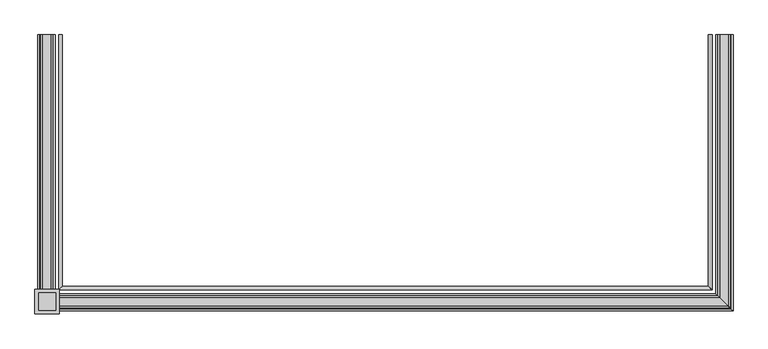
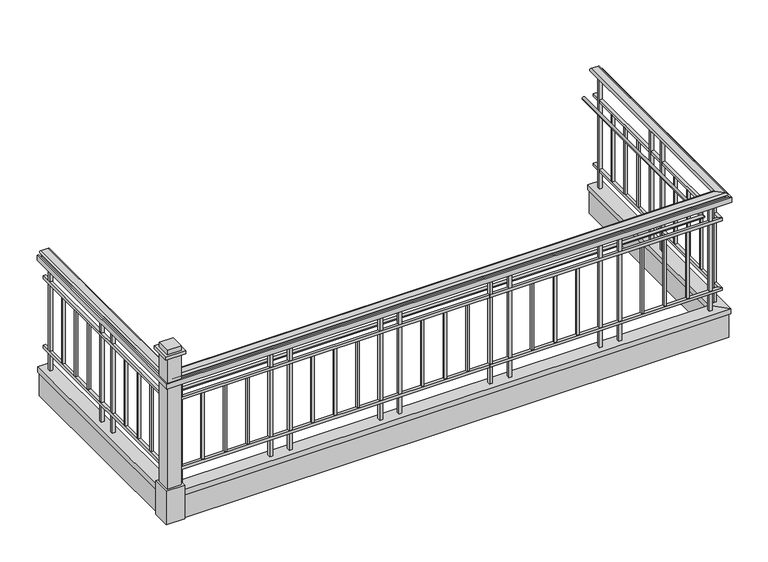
"""IFC4 building model written with IfcOpenShell, lengths in millimetres: railing geometry, Deco Type."""

from ifc_helpers import new_model, si_unit, frame, origin, place, context, project, spatial, polyline, circle_curve, ellipse_curve, outline, extrude, faceted_brep, source, transform, mapped, element, save
from ifc_brep_helpers import plane_surface, cylinder_surface, advanced_brep


def railing_7ef01e42(model_context):
    return source(origin(), model_context, "Body", "SolidModel", [
        advanced_brep(
        [(10061.4002076, -7864.1661799, 7194.55), (10124.7499602, -7864.1661799, 7194.55), (10124.7499602, -7864.1661799, 7172.261629), (10124.7499602, -7864.1661799, 7162.8), (10061.4002076, -7864.1661799, 7162.8), (10061.4002076, -7864.1661799, 7172.3248415), (10061.4002076, -9707.4039273, 7172.3248415), (10061.4002076, -9707.4039273, 7194.55), (10061.4002076, -9707.4039273, 7162.8), (10124.7499602, -9770.7536799, 7162.8), (10124.7499602, -9770.7536799, 7172.261629), (10124.7499602, -9770.7536799, 7194.55), (5376.3872128, -9707.4039273, 7172.3248415), (5376.3872128, -9707.4039273, 7194.55), (5376.3872128, -9707.4039273, 7162.8), (5313.0374602, -9770.7536799, 7162.8), (5313.0374602, -9770.7536799, 7172.261629), (5313.0374602, -9770.7536799, 7194.55), (5376.3872128, -7864.1661799, 7194.55), (5376.3872128, -7864.1661799, 7172.3248415), (5376.3872128, -7864.1661799, 7162.8), (5313.0374602, -7864.1661799, 7162.8), (5313.0374602, -7864.1661799, 7172.261629), (5313.0374602, -7864.1661799, 7194.55)],
        [
            (0, 1),
            (1, 2, circle_curve(frame((10124.7499602, -7864.1661799, 7183.4058145), z_axis=(0.0, 1.0, 0.0), x_axis=(1.0, 0.0, 0.0)), 11.1441855)),
            (2, 3),
            (3, 4),
            (4, 5),
            (5, 0, circle_curve(frame((10061.4002076, -7864.1661799, 7183.4374207), z_axis=(0.0, 1.0, 0.0), x_axis=(1.0, 0.0, 0.0)), 11.1125793)),
            (5, 6),
            (6, 7, ellipse_curve(frame((10061.4002076, -9707.4039273, 7183.4374207), z_axis=(0.7071067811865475, 0.7071067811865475, 0.0), x_axis=(-0.7071067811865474, 0.7071067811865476, 0.0)), 15.7155603, 11.1125793)),
            (7, 0),
            (4, 8),
            (8, 6),
            (3, 9),
            (9, 8),
            (2, 10),
            (10, 9),
            (1, 11),
            (11, 10, ellipse_curve(frame((10124.7499602, -9770.7536799, 7183.4058145), z_axis=(0.7071067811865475, 0.7071067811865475, 0.0), x_axis=(-0.7071067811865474, 0.7071067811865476, 0.0)), 15.7602583, 11.1441855)),
            (7, 11),
            (6, 12),
            (12, 13, ellipse_curve(frame((5376.3872128, -9707.4039273, 7183.4374207), z_axis=(0.7071067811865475, -0.7071067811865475, 0.0), x_axis=(0.7071067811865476, 0.7071067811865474, 0.0)), 15.7155603, 11.1125793)),
            (13, 7),
            (8, 14),
            (14, 12),
            (9, 15),
            (15, 14),
            (10, 16),
            (16, 15),
            (11, 17),
            (17, 16, ellipse_curve(frame((5313.0374602, -9770.7536799, 7183.4058145), z_axis=(0.7071067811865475, -0.7071067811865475, 0.0), x_axis=(0.7071067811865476, 0.7071067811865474, 0.0)), 15.7602583, 11.1441855)),
            (13, 17),
            (18, 19, circle_curve(frame((5376.3872128, -7864.1661799, 7183.4374207), z_axis=(0.0, 1.0, 0.0), x_axis=(-1.0, 0.0, 0.0)), 11.1125793)),
            (19, 20),
            (20, 21),
            (21, 22),
            (22, 23, circle_curve(frame((5313.0374602, -7864.1661799, 7183.4058145), z_axis=(0.0, 1.0, 0.0), x_axis=(-1.0, 0.0, 0.0)), 11.1441855)),
            (23, 18),
            (12, 19),
            (18, 13),
            (14, 20),
            (15, 21),
            (16, 22),
            (17, 23),
        ],
        [
            plane_surface(frame((10092.9999602, -7864.1661799, 7162.8), z_axis=(0.0, 1.0, 0.0), x_axis=(0.0, 0.0, -1.0))),
            cylinder_surface(frame((10061.4002076, -7864.1661799, 7183.4374207), z_axis=(0.0, 1.0, 0.0), x_axis=(1.0, 0.0, 0.0)), 11.1125793),
            plane_surface(frame((10061.4002076, -7864.1661799, 7162.8), z_axis=(-1.0, 0.0, 0.0), x_axis=(0.0, -1.0, 0.0))),
            plane_surface(frame((10124.7499602, -7864.1661799, 7162.8), z_axis=(0.0, 0.0, -1.0), x_axis=(0.0, -1.0, 0.0))),
            plane_surface(frame((10124.7499602, -7864.1661799, 7172.261629), z_axis=(1.0, 0.0, 0.0), x_axis=(0.0, -1.0, 0.0))),
            cylinder_surface(frame((10124.7499602, -7864.1661799, 7183.4058145), z_axis=(0.0, 1.0, 0.0), x_axis=(1.0, 0.0, 0.0)), 11.1441855),
            plane_surface(frame((10061.4002076, -7864.1661799, 7194.55), z_axis=(0.0, 0.0, 1.0), x_axis=(0.0, -1.0, 0.0))),
            cylinder_surface(frame((10092.9999602, -9707.4039273, 7183.4374207), z_axis=(1.0, 0.0, 0.0), x_axis=(0.0, -1.0, 0.0)), 11.1125793),
            plane_surface(frame((10061.4002076, -9707.4039273, 7162.8), z_axis=(0.0, 1.0, 0.0), x_axis=(-1.0, 0.0, 0.0))),
            plane_surface(frame((10124.7499602, -9770.7536799, 7162.8), z_axis=(0.0, 0.0, -1.0), x_axis=(-1.0, 0.0, 0.0))),
            plane_surface(frame((10124.7499602, -9770.7536799, 7172.261629), z_axis=(0.0, -1.0, 0.0), x_axis=(-1.0, 0.0, 0.0))),
            cylinder_surface(frame((10092.9999602, -9770.7536799, 7183.4058145), z_axis=(1.0, 0.0, 0.0), x_axis=(0.0, -1.0, 0.0)), 11.1441855),
            plane_surface(frame((10061.4002076, -9707.4039273, 7194.55), z_axis=(0.0, 0.0, 1.0), x_axis=(-1.0, 0.0, 0.0))),
            plane_surface(frame((5344.7874602, -7864.1661799, 7162.8), z_axis=(0.0, 1.0, 0.0), x_axis=(0.0, 0.0, 1.0))),
            cylinder_surface(frame((5376.3872128, -9739.0036799, 7183.4374207), z_axis=(0.0, -1.0, 0.0), x_axis=(-1.0, 0.0, 0.0)), 11.1125793),
            plane_surface(frame((5376.3872128, -9707.4039273, 7162.8), z_axis=(1.0, 0.0, 0.0), x_axis=(0.0, 1.0, 0.0))),
            plane_surface(frame((5313.0374602, -9770.7536799, 7162.8), z_axis=(0.0, 0.0, -1.0), x_axis=(0.0, 1.0, 0.0))),
            plane_surface(frame((5313.0374602, -9770.7536799, 7172.261629), z_axis=(-1.0, 0.0, 0.0), x_axis=(0.0, 1.0, 0.0))),
            cylinder_surface(frame((5313.0374602, -9739.0036799, 7183.4058145), z_axis=(0.0, -1.0, 0.0), x_axis=(-1.0, 0.0, 0.0)), 11.1441855),
            plane_surface(frame((5376.3872128, -9707.4039273, 7194.55), z_axis=(0.0, 0.0, 1.0), x_axis=(0.0, 1.0, 0.0))),
        ],
        [
            (0, [[1, 2, 3, 4, 5, 6]]),
            (1, [[-6, 7, 8, 9]]),
            (2, [[-5, 10, 11, -7]]),
            (3, [[-4, 12, 13, -10]]),
            (4, [[-3, 14, 15, -12]]),
            (5, [[-2, 16, 17, -14]]),
            (6, [[-1, -9, 18, -16]]),
            (7, [[-8, 19, 20, 21]]),
            (8, [[-11, 22, 23, -19]]),
            (9, [[-13, 24, 25, -22]]),
            (10, [[-15, 26, 27, -24]]),
            (11, [[-17, 28, 29, -26]]),
            (12, [[-18, -21, 30, -28]]),
            (13, [[31, 32, 33, 34, 35, 36]]),
            (14, [[-20, 37, -31, 38]]),
            (15, [[-23, 39, -32, -37]]),
            (16, [[-25, 40, -33, -39]]),
            (17, [[-27, 41, -34, -40]]),
            (18, [[-29, 42, -35, -41]]),
            (19, [[-30, -38, -36, -42]]),
        ],
    ),
        faceted_brep([(10118.4750839, -7864.1661799, 7162.8), (10118.4750839, -7864.1661799, 7118.35), (10105.7750839, -7864.1661799, 7118.35), (10105.7750839, -7864.1661799, 7162.8), (10105.7750839, -9751.7788036, 7162.8), (10118.4750839, -9764.4788036, 7162.8), (10105.7750839, -9751.7788036, 7118.35), (10118.4750839, -9764.4788036, 7118.35), (5332.0123365, -9751.7788036, 7162.8), (5319.3123365, -9764.4788036, 7162.8), (5332.0123365, -9751.7788036, 7118.35), (5319.3123365, -9764.4788036, 7118.35), (5319.3123365, -7864.1661799, 7162.8), (5332.0123365, -7864.1661799, 7162.8), (5332.0123365, -7864.1661799, 7118.35), (5319.3123365, -7864.1661799, 7118.35)], [[[0, 1, 2, 3]], [[0, 3, 4, 5]], [[3, 2, 6, 4]], [[2, 1, 7, 6]], [[1, 0, 5, 7]], [[5, 4, 8, 9]], [[4, 6, 10, 8]], [[6, 7, 11, 10]], [[7, 5, 9, 11]], [[12, 13, 14, 15]], [[9, 8, 13, 12]], [[8, 10, 14, 13]], [[10, 11, 15, 14]], [[11, 9, 12, 15]]]),
        faceted_brep([(10156.5750839, -7864.1661799, 7162.8), (10156.5750839, -7864.1661799, 7118.35), (10143.8750839, -7864.1661799, 7118.35), (10143.8750839, -7864.1661799, 7162.8), (10143.8750839, -9789.8788036, 7162.8), (10156.5750839, -9802.5788036, 7162.8), (10143.8750839, -9789.8788036, 7118.35), (10156.5750839, -9802.5788036, 7118.35), (5293.9123365, -9789.8788036, 7162.8), (5281.2123365, -9802.5788036, 7162.8), (5293.9123365, -9789.8788036, 7118.35), (5281.2123365, -9802.5788036, 7118.35), (5281.2123365, -7864.1661799, 7162.8), (5293.9123365, -7864.1661799, 7162.8), (5293.9123365, -7864.1661799, 7118.35), (5281.2123365, -7864.1661799, 7118.35)], [[[0, 1, 2, 3]], [[0, 3, 4, 5]], [[3, 2, 6, 4]], [[2, 1, 7, 6]], [[1, 0, 5, 7]], [[5, 4, 8, 9]], [[4, 6, 10, 8]], [[6, 7, 11, 10]], [[7, 5, 9, 11]], [[12, 13, 14, 15]], [[9, 8, 13, 12]], [[8, 10, 14, 13]], [[10, 11, 15, 14]], [[11, 9, 12, 15]]]),
        faceted_brep([(10105.6999602, -7864.1661799, 6959.6), (10105.6999602, -7864.1661799, 6934.2), (10080.2999602, -7864.1661799, 6934.2), (10080.2999602, -7864.1661799, 6959.6), (10080.2999602, -9726.3036799, 6959.6), (10105.6999602, -9751.7036799, 6959.6), (10080.2999602, -9726.3036799, 6934.2), (10105.6999602, -9751.7036799, 6934.2), (5357.4874602, -9726.3036799, 6959.6), (5332.0874602, -9751.7036799, 6959.6), (5357.4874602, -9726.3036799, 6934.2), (5332.0874602, -9751.7036799, 6934.2), (5332.0874602, -7864.1661799, 6959.6), (5357.4874602, -7864.1661799, 6959.6), (5357.4874602, -7864.1661799, 6934.2), (5332.0874602, -7864.1661799, 6934.2)], [[[0, 1, 2, 3]], [[0, 3, 4, 5]], [[3, 2, 6, 4]], [[2, 1, 7, 6]], [[1, 0, 5, 7]], [[5, 4, 8, 9]], [[4, 6, 10, 8]], [[6, 7, 11, 10]], [[7, 5, 9, 11]], [[12, 13, 14, 15]], [[9, 8, 13, 12]], [[8, 10, 14, 13]], [[10, 11, 15, 14]], [[11, 9, 12, 15]]]),
        advanced_brep(
        [(9983.4624602, -7864.1661799, 6946.9), (10008.8624602, -7864.1661799, 6946.9), (10008.8624602, -9654.8661799, 6946.9), (9983.4624602, -9629.4661799, 6946.9), (5428.9249602, -9654.8661799, 6946.9), (5454.3249602, -9629.4661799, 6946.9), (5454.3249602, -7864.1661799, 6946.9), (5428.9249602, -7864.1661799, 6946.9)],
        [
            (0, 1, circle_curve(frame((9996.1624602, -7864.1661799, 6946.9), z_axis=(0.0, 1.0, 0.0), x_axis=(1.0, 0.0, 0.0)), 12.7)),
            (1, 0, circle_curve(frame((9996.1624602, -7864.1661799, 6946.9), z_axis=(0.0, 1.0, 0.0), x_axis=(1.0, 0.0, 0.0)), 12.7)),
            (1, 2),
            (2, 3, ellipse_curve(frame((9996.1624602, -9642.1661799, 6946.9), z_axis=(0.7071067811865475, 0.7071067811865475, 0.0), x_axis=(-0.7071067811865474, 0.7071067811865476, 0.0)), 17.9605122, 12.7)),
            (3, 0),
            (3, 2, ellipse_curve(frame((9996.1624602, -9642.1661799, 6946.9), z_axis=(0.7071067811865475, 0.7071067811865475, 0.0), x_axis=(-0.7071067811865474, 0.7071067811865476, 0.0)), 17.9605122, 12.7)),
            (2, 4),
            (4, 5, ellipse_curve(frame((5441.6249602, -9642.1661799, 6946.9), z_axis=(0.7071067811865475, -0.7071067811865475, 0.0), x_axis=(0.7071067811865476, 0.7071067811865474, 0.0)), 17.9605122, 12.7)),
            (5, 3),
            (5, 4, ellipse_curve(frame((5441.6249602, -9642.1661799, 6946.9), z_axis=(0.7071067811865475, -0.7071067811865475, 0.0), x_axis=(0.7071067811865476, 0.7071067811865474, 0.0)), 17.9605122, 12.7)),
            (6, 7, circle_curve(frame((5441.6249602, -7864.1661799, 6946.9), z_axis=(0.0, 1.0, 0.0), x_axis=(-1.0, 0.0, 0.0)), 12.7)),
            (7, 6, circle_curve(frame((5441.6249602, -7864.1661799, 6946.9), z_axis=(0.0, 1.0, 0.0), x_axis=(-1.0, 0.0, 0.0)), 12.7)),
            (4, 7),
            (6, 5),
        ],
        [
            plane_surface(frame((9996.1624602, -7864.1661799, 6946.9), z_axis=(0.0, 1.0, 0.0), x_axis=(0.0, 0.0, -1.0))),
            cylinder_surface(frame((9996.1624602, -7864.1661799, 6946.9), z_axis=(0.0, 1.0, 0.0), x_axis=(1.0, 0.0, 0.0)), 12.7),
            cylinder_surface(frame((9996.1624602, -9642.1661799, 6946.9), z_axis=(1.0, 0.0, 0.0), x_axis=(0.0, -1.0, 0.0)), 12.7),
            plane_surface(frame((5441.6249602, -7864.1661799, 6946.9), z_axis=(0.0, 1.0, 0.0), x_axis=(0.0, 0.0, 1.0))),
            cylinder_surface(frame((5441.6249602, -9642.1661799, 6946.9), z_axis=(0.0, -1.0, 0.0), x_axis=(-1.0, 0.0, 0.0)), 12.7),
        ],
        [
            (0, [[1, 2]]),
            (1, [[-2, 3, 4, 5]]),
            (1, [[-1, -5, 6, -3]]),
            (2, [[-4, 7, 8, 9]]),
            (2, [[-6, -9, 10, -7]]),
            (3, [[11, 12]]),
            (4, [[-8, 13, -11, 14]]),
            (4, [[-10, -14, -12, -13]]),
        ],
    ),
        faceted_brep([(10105.6999602, -7864.1661799, 6324.6), (10105.6999602, -7864.1661799, 6299.2), (10080.2999602, -7864.1661799, 6299.2), (10080.2999602, -7864.1661799, 6324.6), (10080.2999602, -9726.3036799, 6324.6), (10105.6999602, -9751.7036799, 6324.6), (10080.2999602, -9726.3036799, 6299.2), (10105.6999602, -9751.7036799, 6299.2), (5357.4874602, -9726.3036799, 6324.6), (5332.0874602, -9751.7036799, 6324.6), (5357.4874602, -9726.3036799, 6299.2), (5332.0874602, -9751.7036799, 6299.2), (5332.0874602, -7864.1661799, 6324.6), (5357.4874602, -7864.1661799, 6324.6), (5357.4874602, -7864.1661799, 6299.2), (5332.0874602, -7864.1661799, 6299.2)], [[[0, 1, 2, 3]], [[0, 3, 4, 5]], [[3, 2, 6, 4]], [[2, 1, 7, 6]], [[1, 0, 5, 7]], [[5, 4, 8, 9]], [[4, 6, 10, 8]], [[6, 7, 11, 10]], [[7, 5, 9, 11]], [[12, 13, 14, 15]], [[9, 8, 13, 12]], [[8, 10, 14, 13]], [[10, 11, 15, 14]], [[11, 9, 12, 15]]]),
        faceted_brep([(10034.3375839, -7864.1661799, 6145.0362864), (10151.8125839, -7864.1661799, 6145.0362864), (10151.8125839, -7864.1661799, 6096.0), (10139.1125839, -7864.1661799, 6096.0), (10139.1125839, -7864.1661799, 6132.3362864), (10047.0375839, -7864.1661799, 6132.3362864), (10047.0375839, -7864.1661799, 6096.0), (10034.3375839, -7864.1661799, 6096.0), (10034.3375839, -9680.3413036, 6096.0), (10034.3375839, -9680.3413036, 6145.0362864), (10047.0375839, -9693.0413036, 6096.0), (10047.0375839, -9693.0413036, 6132.3362864), (10139.1125839, -9785.1163036, 6132.3362864), (10139.1125839, -9785.1163036, 6096.0), (10151.8125839, -9797.8163036, 6096.0), (10151.8125839, -9797.8163036, 6145.0362864), (5403.4498365, -9680.3413036, 6096.0), (5403.4498365, -9680.3413036, 6145.0362864), (5390.7498365, -9693.0413036, 6096.0), (5390.7498365, -9693.0413036, 6132.3362864), (5298.6748365, -9785.1163036, 6132.3362864), (5298.6748365, -9785.1163036, 6096.0), (5285.9748365, -9797.8163036, 6096.0), (5285.9748365, -9797.8163036, 6145.0362864), (5403.4498365, -7864.1661799, 6145.0362864), (5403.4498365, -7864.1661799, 6096.0), (5390.7498365, -7864.1661799, 6096.0), (5390.7498365, -7864.1661799, 6132.3362864), (5298.6748365, -7864.1661799, 6132.3362864), (5298.6748365, -7864.1661799, 6096.0), (5285.9748365, -7864.1661799, 6096.0), (5285.9748365, -7864.1661799, 6145.0362864)], [[[0, 1, 2, 3, 4, 5, 6, 7]], [[0, 7, 8, 9]], [[7, 6, 10, 8]], [[6, 5, 11, 10]], [[5, 4, 12, 11]], [[4, 3, 13, 12]], [[3, 2, 14, 13]], [[2, 1, 15, 14]], [[1, 0, 9, 15]], [[9, 8, 16, 17]], [[8, 10, 18, 16]], [[10, 11, 19, 18]], [[11, 12, 20, 19]], [[12, 13, 21, 20]], [[13, 14, 22, 21]], [[14, 15, 23, 22]], [[15, 9, 17, 23]], [[24, 25, 26, 27, 28, 29, 30, 31]], [[17, 16, 25, 24]], [[16, 18, 26, 25]], [[18, 19, 27, 26]], [[19, 20, 28, 27]], [[20, 21, 29, 28]], [[21, 22, 30, 29]], [[22, 23, 31, 30]], [[23, 17, 24, 31]]]),
        faceted_brep([(10047.0375839, -7864.1661799, 6132.3362864), (10139.1125839, -7864.1661799, 6132.3362864), (10139.1125839, -7864.1661799, 5878.3362864), (10047.0375839, -7864.1661799, 5878.3362864), (10047.0375839, -9693.0413036, 5878.3362864), (10047.0375839, -9693.0413036, 6132.3362864), (10139.1125839, -9785.1163036, 5878.3362864), (10139.1125839, -9785.1163036, 6132.3362864), (5390.7498365, -9693.0413036, 5878.3362864), (5390.7498365, -9693.0413036, 6132.3362864), (5298.6748365, -9785.1163036, 5878.3362864), (5298.6748365, -9785.1163036, 6132.3362864), (5390.7498365, -7864.1661799, 6132.3362864), (5390.7498365, -7864.1661799, 5878.3362864), (5298.6748365, -7864.1661799, 5878.3362864), (5298.6748365, -7864.1661799, 6132.3362864)], [[[0, 1, 2, 3]], [[0, 3, 4, 5]], [[3, 2, 6, 4]], [[2, 1, 7, 6]], [[1, 0, 5, 7]], [[5, 4, 8, 9]], [[4, 6, 10, 8]], [[6, 7, 11, 10]], [[7, 5, 9, 11]], [[12, 13, 14, 15]], [[9, 8, 13, 12]], [[8, 10, 14, 13]], [[10, 11, 15, 14]], [[11, 9, 12, 15]]]),
        extrude(outline(polyline([(5334.8655852, -7959.4570347), (5334.8655852, -7934.0570347), (5360.2655852, -7934.0570347), (5360.2655852, -7959.4570347), (5334.8655852, -7959.4570347)])), frame((0.0, 0.0, 6145.0362864), z_axis=(0.0, 0.0, 1.0), x_axis=(1.0, 0.0, 0.0)), (0.0, 0.0, 1.0), 1017.7637136),
        extrude(outline(polyline([(5338.0405852, -8148.9940292), (5338.0405852, -8129.9440292), (5357.0905852, -8129.9440292), (5357.0905852, -8148.9940292), (5338.0405852, -8148.9940292)])), frame((0.0, 0.0, 6324.6), z_axis=(0.0, 0.0, 1.0), x_axis=(1.0, 0.0, 0.0)), (0.0, 0.0, 1.0), 609.6),
        extrude(outline(polyline([(5338.0405852, -8341.7060237), (5338.0405852, -8322.6560237), (5357.0905852, -8322.6560237), (5357.0905852, -8341.7060237), (5338.0405852, -8341.7060237)])), frame((0.0, 0.0, 6324.6), z_axis=(0.0, 0.0, 1.0), x_axis=(1.0, 0.0, 0.0)), (0.0, 0.0, 1.0), 609.6),
        extrude(outline(polyline([(5338.0405852, -8534.4180182), (5338.0405852, -8515.3680182), (5357.0905852, -8515.3680182), (5357.0905852, -8534.4180182), (5338.0405852, -8534.4180182)])), frame((0.0, 0.0, 6324.6), z_axis=(0.0, 0.0, 1.0), x_axis=(1.0, 0.0, 0.0)), (0.0, 0.0, 1.0), 609.6),
        extrude(outline(polyline([(5334.8655852, -8730.3050126), (5334.8655852, -8704.9050126), (5360.2655852, -8704.9050126), (5360.2655852, -8730.3050126), (5334.8655852, -8730.3050126)])), frame((0.0, 0.0, 6145.0362864), z_axis=(0.0, 0.0, 1.0), x_axis=(1.0, 0.0, 0.0)), (0.0, 0.0, 1.0), 1017.7637136),
        extrude(outline(polyline([(5334.8655852, -8895.4867222), (5334.8655852, -8870.0867222), (5360.2655852, -8870.0867222), (5360.2655852, -8895.4867222), (5334.8655852, -8895.4867222)])), frame((0.0, 0.0, 6145.0362864), z_axis=(0.0, 0.0, 1.0), x_axis=(1.0, 0.0, 0.0)), (0.0, 0.0, 1.0), 1017.7637136),
        extrude(outline(polyline([(5338.0405852, -9085.0237167), (5338.0405852, -9065.9737167), (5357.0905852, -9065.9737167), (5357.0905852, -9085.0237167), (5338.0405852, -9085.0237167)])), frame((0.0, 0.0, 6324.6), z_axis=(0.0, 0.0, 1.0), x_axis=(1.0, 0.0, 0.0)), (0.0, 0.0, 1.0), 609.6),
        extrude(outline(polyline([(5338.0405852, -9277.7357112), (5338.0405852, -9258.6857112), (5357.0905852, -9258.6857112), (5357.0905852, -9277.7357112), (5338.0405852, -9277.7357112)])), frame((0.0, 0.0, 6324.6), z_axis=(0.0, 0.0, 1.0), x_axis=(1.0, 0.0, 0.0)), (0.0, 0.0, 1.0), 609.6),
        extrude(outline(polyline([(5338.0405852, -9470.4477057), (5338.0405852, -9451.3977057), (5357.0905852, -9451.3977057), (5357.0905852, -9470.4477057), (5338.0405852, -9470.4477057)])), frame((0.0, 0.0, 6324.6), z_axis=(0.0, 0.0, 1.0), x_axis=(1.0, 0.0, 0.0)), (0.0, 0.0, 1.0), 609.6),
        extrude(outline(polyline([(5334.8655852, -9666.3347001), (5334.8655852, -9640.9347001), (5360.2655852, -9640.9347001), (5360.2655852, -9666.3347001), (5334.8655852, -9666.3347001)])), frame((0.0, 0.0, 6145.0362864), z_axis=(0.0, 0.0, 1.0), x_axis=(1.0, 0.0, 0.0)), (0.0, 0.0, 1.0), 1017.7637136),
        extrude(outline(polyline([(5443.959519, -9748.9255549), (5418.559519, -9748.9255549), (5418.559519, -9723.5255549), (5443.959519, -9723.5255549), (5443.959519, -9748.9255549)])), frame((0.0, 0.0, 6145.0362864), z_axis=(0.0, 0.0, 1.0), x_axis=(1.0, 0.0, 0.0)), (0.0, 0.0, 1.0), 1017.7637136),
        extrude(outline(polyline([(5636.0703646, -9745.7505549), (5617.0203646, -9745.7505549), (5617.0203646, -9726.7005549), (5636.0703646, -9726.7005549), (5636.0703646, -9745.7505549)])), frame((0.0, 0.0, 6324.6), z_axis=(0.0, 0.0, 1.0), x_axis=(1.0, 0.0, 0.0)), (0.0, 0.0, 1.0), 609.6),
        extrude(outline(polyline([(5831.3562102, -9745.7505549), (5812.3062102, -9745.7505549), (5812.3062102, -9726.7005549), (5831.3562102, -9726.7005549), (5831.3562102, -9745.7505549)])), frame((0.0, 0.0, 6324.6), z_axis=(0.0, 0.0, 1.0), x_axis=(1.0, 0.0, 0.0)), (0.0, 0.0, 1.0), 609.6),
        extrude(outline(polyline([(6026.6420558, -9745.7505549), (6007.5920558, -9745.7505549), (6007.5920558, -9726.7005549), (6026.6420558, -9726.7005549), (6026.6420558, -9745.7505549)])), frame((0.0, 0.0, 6324.6), z_axis=(0.0, 0.0, 1.0), x_axis=(1.0, 0.0, 0.0)), (0.0, 0.0, 1.0), 609.6),
        extrude(outline(polyline([(6225.1029014, -9748.9255549), (6199.7029014, -9748.9255549), (6199.7029014, -9723.5255549), (6225.1029014, -9723.5255549), (6225.1029014, -9748.9255549)])), frame((0.0, 0.0, 6145.0362864), z_axis=(0.0, 0.0, 1.0), x_axis=(1.0, 0.0, 0.0)), (0.0, 0.0, 1.0), 1017.7637136),
        extrude(outline(polyline([(6392.490769, -9748.9255549), (6367.090769, -9748.9255549), (6367.090769, -9723.5255549), (6392.490769, -9723.5255549), (6392.490769, -9748.9255549)])), frame((0.0, 0.0, 6145.0362864), z_axis=(0.0, 0.0, 1.0), x_axis=(1.0, 0.0, 0.0)), (0.0, 0.0, 1.0), 1017.7637136),
        extrude(outline(polyline([(6584.6016146, -9745.7505549), (6565.5516146, -9745.7505549), (6565.5516146, -9726.7005549), (6584.6016146, -9726.7005549), (6584.6016146, -9745.7505549)])), frame((0.0, 0.0, 6324.6), z_axis=(0.0, 0.0, 1.0), x_axis=(1.0, 0.0, 0.0)), (0.0, 0.0, 1.0), 609.6),
        extrude(outline(polyline([(6779.8874602, -9745.7505549), (6760.8374602, -9745.7505549), (6760.8374602, -9726.7005549), (6779.8874602, -9726.7005549), (6779.8874602, -9745.7505549)])), frame((0.0, 0.0, 6324.6), z_axis=(0.0, 0.0, 1.0), x_axis=(1.0, 0.0, 0.0)), (0.0, 0.0, 1.0), 609.6),
        extrude(outline(polyline([(6975.1733058, -9745.7505549), (6956.1233058, -9745.7505549), (6956.1233058, -9726.7005549), (6975.1733058, -9726.7005549), (6975.1733058, -9745.7505549)])), frame((0.0, 0.0, 6324.6), z_axis=(0.0, 0.0, 1.0), x_axis=(1.0, 0.0, 0.0)), (0.0, 0.0, 1.0), 609.6),
        extrude(outline(polyline([(7173.6341514, -9748.9255549), (7148.2341514, -9748.9255549), (7148.2341514, -9723.5255549), (7173.6341514, -9723.5255549), (7173.6341514, -9748.9255549)])), frame((0.0, 0.0, 6145.0362864), z_axis=(0.0, 0.0, 1.0), x_axis=(1.0, 0.0, 0.0)), (0.0, 0.0, 1.0), 1017.7637136),
        extrude(outline(polyline([(7341.022019, -9748.9255549), (7315.622019, -9748.9255549), (7315.622019, -9723.5255549), (7341.022019, -9723.5255549), (7341.022019, -9748.9255549)])), frame((0.0, 0.0, 6145.0362864), z_axis=(0.0, 0.0, 1.0), x_axis=(1.0, 0.0, 0.0)), (0.0, 0.0, 1.0), 1017.7637136),
        extrude(outline(polyline([(7533.1328646, -9745.7505549), (7514.0828646, -9745.7505549), (7514.0828646, -9726.7005549), (7533.1328646, -9726.7005549), (7533.1328646, -9745.7505549)])), frame((0.0, 0.0, 6324.6), z_axis=(0.0, 0.0, 1.0), x_axis=(1.0, 0.0, 0.0)), (0.0, 0.0, 1.0), 609.6),
        extrude(outline(polyline([(7728.4187102, -9745.7505549), (7709.3687102, -9745.7505549), (7709.3687102, -9726.7005549), (7728.4187102, -9726.7005549), (7728.4187102, -9745.7505549)])), frame((0.0, 0.0, 6324.6), z_axis=(0.0, 0.0, 1.0), x_axis=(1.0, 0.0, 0.0)), (0.0, 0.0, 1.0), 609.6),
        extrude(outline(polyline([(7923.7045558, -9745.7505549), (7904.6545558, -9745.7505549), (7904.6545558, -9726.7005549), (7923.7045558, -9726.7005549), (7923.7045558, -9745.7505549)])), frame((0.0, 0.0, 6324.6), z_axis=(0.0, 0.0, 1.0), x_axis=(1.0, 0.0, 0.0)), (0.0, 0.0, 1.0), 609.6),
        extrude(outline(polyline([(8122.1654014, -9748.9255549), (8096.7654014, -9748.9255549), (8096.7654014, -9723.5255549), (8122.1654014, -9723.5255549), (8122.1654014, -9748.9255549)])), frame((0.0, 0.0, 6145.0362864), z_axis=(0.0, 0.0, 1.0), x_axis=(1.0, 0.0, 0.0)), (0.0, 0.0, 1.0), 1017.7637136),
        extrude(outline(polyline([(8289.553269, -9748.9255549), (8264.153269, -9748.9255549), (8264.153269, -9723.5255549), (8289.553269, -9723.5255549), (8289.553269, -9748.9255549)])), frame((0.0, 0.0, 6145.0362864), z_axis=(0.0, 0.0, 1.0), x_axis=(1.0, 0.0, 0.0)), (0.0, 0.0, 1.0), 1017.7637136),
        extrude(outline(polyline([(8481.6641146, -9745.7505549), (8462.6141146, -9745.7505549), (8462.6141146, -9726.7005549), (8481.6641146, -9726.7005549), (8481.6641146, -9745.7505549)])), frame((0.0, 0.0, 6324.6), z_axis=(0.0, 0.0, 1.0), x_axis=(1.0, 0.0, 0.0)), (0.0, 0.0, 1.0), 609.6),
        extrude(outline(polyline([(8676.9499602, -9745.7505549), (8657.8999602, -9745.7505549), (8657.8999602, -9726.7005549), (8676.9499602, -9726.7005549), (8676.9499602, -9745.7505549)])), frame((0.0, 0.0, 6324.6), z_axis=(0.0, 0.0, 1.0), x_axis=(1.0, 0.0, 0.0)), (0.0, 0.0, 1.0), 609.6),
        extrude(outline(polyline([(8872.2358058, -9745.7505549), (8853.1858058, -9745.7505549), (8853.1858058, -9726.7005549), (8872.2358058, -9726.7005549), (8872.2358058, -9745.7505549)])), frame((0.0, 0.0, 6324.6), z_axis=(0.0, 0.0, 1.0), x_axis=(1.0, 0.0, 0.0)), (0.0, 0.0, 1.0), 609.6),
        extrude(outline(polyline([(9070.6966514, -9748.9255549), (9045.2966514, -9748.9255549), (9045.2966514, -9723.5255549), (9070.6966514, -9723.5255549), (9070.6966514, -9748.9255549)])), frame((0.0, 0.0, 6145.0362864), z_axis=(0.0, 0.0, 1.0), x_axis=(1.0, 0.0, 0.0)), (0.0, 0.0, 1.0), 1017.7637136),
        extrude(outline(polyline([(9238.084519, -9748.9255549), (9212.684519, -9748.9255549), (9212.684519, -9723.5255549), (9238.084519, -9723.5255549), (9238.084519, -9748.9255549)])), frame((0.0, 0.0, 6145.0362864), z_axis=(0.0, 0.0, 1.0), x_axis=(1.0, 0.0, 0.0)), (0.0, 0.0, 1.0), 1017.7637136),
        extrude(outline(polyline([(9430.1953646, -9745.7505549), (9411.1453646, -9745.7505549), (9411.1453646, -9726.7005549), (9430.1953646, -9726.7005549), (9430.1953646, -9745.7505549)])), frame((0.0, 0.0, 6324.6), z_axis=(0.0, 0.0, 1.0), x_axis=(1.0, 0.0, 0.0)), (0.0, 0.0, 1.0), 609.6),
        extrude(outline(polyline([(9625.4812102, -9745.7505549), (9606.4312102, -9745.7505549), (9606.4312102, -9726.7005549), (9625.4812102, -9726.7005549), (9625.4812102, -9745.7505549)])), frame((0.0, 0.0, 6324.6), z_axis=(0.0, 0.0, 1.0), x_axis=(1.0, 0.0, 0.0)), (0.0, 0.0, 1.0), 609.6),
        extrude(outline(polyline([(9820.7670558, -9745.7505549), (9801.7170558, -9745.7505549), (9801.7170558, -9726.7005549), (9820.7670558, -9726.7005549), (9820.7670558, -9745.7505549)])), frame((0.0, 0.0, 6324.6), z_axis=(0.0, 0.0, 1.0), x_axis=(1.0, 0.0, 0.0)), (0.0, 0.0, 1.0), 609.6),
        extrude(outline(polyline([(10019.2279014, -9748.9255549), (9993.8279014, -9748.9255549), (9993.8279014, -9723.5255549), (10019.2279014, -9723.5255549), (10019.2279014, -9748.9255549)])), frame((0.0, 0.0, 6145.0362864), z_axis=(0.0, 0.0, 1.0), x_axis=(1.0, 0.0, 0.0)), (0.0, 0.0, 1.0), 1017.7637136),
        extrude(outline(polyline([(10102.9218352, -9640.9347001), (10102.9218352, -9666.3347001), (10077.5218352, -9666.3347001), (10077.5218352, -9640.9347001), (10102.9218352, -9640.9347001)])), frame((0.0, 0.0, 6145.0362864), z_axis=(0.0, 0.0, 1.0), x_axis=(1.0, 0.0, 0.0)), (0.0, 0.0, 1.0), 1017.7637136),
        extrude(outline(polyline([(10099.7468352, -9451.3977057), (10099.7468352, -9470.4477057), (10080.6968352, -9470.4477057), (10080.6968352, -9451.3977057), (10099.7468352, -9451.3977057)])), frame((0.0, 0.0, 6324.6), z_axis=(0.0, 0.0, 1.0), x_axis=(1.0, 0.0, 0.0)), (0.0, 0.0, 1.0), 609.6),
        extrude(outline(polyline([(10099.7468352, -9258.6857112), (10099.7468352, -9277.7357112), (10080.6968352, -9277.7357112), (10080.6968352, -9258.6857112), (10099.7468352, -9258.6857112)])), frame((0.0, 0.0, 6324.6), z_axis=(0.0, 0.0, 1.0), x_axis=(1.0, 0.0, 0.0)), (0.0, 0.0, 1.0), 609.6),
        extrude(outline(polyline([(10099.7468352, -9065.9737167), (10099.7468352, -9085.0237167), (10080.6968352, -9085.0237167), (10080.6968352, -9065.9737167), (10099.7468352, -9065.9737167)])), frame((0.0, 0.0, 6324.6), z_axis=(0.0, 0.0, 1.0), x_axis=(1.0, 0.0, 0.0)), (0.0, 0.0, 1.0), 609.6),
        extrude(outline(polyline([(10102.9218352, -8870.0867222), (10102.9218352, -8895.4867222), (10077.5218352, -8895.4867222), (10077.5218352, -8870.0867222), (10102.9218352, -8870.0867222)])), frame((0.0, 0.0, 6145.0362864), z_axis=(0.0, 0.0, 1.0), x_axis=(1.0, 0.0, 0.0)), (0.0, 0.0, 1.0), 1017.7637136),
        extrude(outline(polyline([(10102.9218352, -8704.9050126), (10102.9218352, -8730.3050126), (10077.5218352, -8730.3050126), (10077.5218352, -8704.9050126), (10102.9218352, -8704.9050126)])), frame((0.0, 0.0, 6145.0362864), z_axis=(0.0, 0.0, 1.0), x_axis=(1.0, 0.0, 0.0)), (0.0, 0.0, 1.0), 1017.7637136),
        extrude(outline(polyline([(10099.7468352, -8515.3680182), (10099.7468352, -8534.4180182), (10080.6968352, -8534.4180182), (10080.6968352, -8515.3680182), (10099.7468352, -8515.3680182)])), frame((0.0, 0.0, 6324.6), z_axis=(0.0, 0.0, 1.0), x_axis=(1.0, 0.0, 0.0)), (0.0, 0.0, 1.0), 609.6),
        extrude(outline(polyline([(10099.7468352, -8322.6560237), (10099.7468352, -8341.7060237), (10080.6968352, -8341.7060237), (10080.6968352, -8322.6560237), (10099.7468352, -8322.6560237)])), frame((0.0, 0.0, 6324.6), z_axis=(0.0, 0.0, 1.0), x_axis=(1.0, 0.0, 0.0)), (0.0, 0.0, 1.0), 609.6),
        extrude(outline(polyline([(10099.7468352, -8129.9440292), (10099.7468352, -8148.9940292), (10080.6968352, -8148.9940292), (10080.6968352, -8129.9440292), (10099.7468352, -8129.9440292)])), frame((0.0, 0.0, 6324.6), z_axis=(0.0, 0.0, 1.0), x_axis=(1.0, 0.0, 0.0)), (0.0, 0.0, 1.0), 609.6),
        extrude(outline(polyline([(10102.9218352, -7934.0570347), (10102.9218352, -7959.4570347), (10077.5218352, -7959.4570347), (10077.5218352, -7934.0570347), (10102.9218352, -7934.0570347)])), frame((0.0, 0.0, 6145.0362864), z_axis=(0.0, 0.0, 1.0), x_axis=(1.0, 0.0, 0.0)), (0.0, 0.0, 1.0), 1017.7637136),
        extrude(outline(polyline([(5426.9405852, -9656.8505549), (5426.9405852, -9815.6005549), (5268.1905852, -9815.6005549), (5268.1905852, -9656.8505549), (5426.9405852, -9656.8505549)])), frame((0.0, 0.0, 5892.8), z_axis=(0.0, 0.0, 1.0), x_axis=(1.0, 0.0, 0.0)), (0.0, 0.0, 1.0), 304.8),
        extrude(outline(polyline([(5407.8905852, -9675.9005549), (5407.8905852, -9796.5505549), (5287.2405852, -9796.5505549), (5287.2405852, -9675.9005549), (5407.8905852, -9675.9005549)])), frame((0.0, 0.0, 6197.6), z_axis=(0.0, 0.0, 1.0), x_axis=(1.0, 0.0, 0.0)), (0.0, 0.0, 1.0), 1270.0),
        extrude(outline(polyline([(5433.2905852, -9821.9505549), (5261.8405852, -9821.9505549), (5261.8405852, -9650.5005549), (5433.2905852, -9650.5005549), (5433.2905852, -9821.9505549)]), holes=[polyline([(5287.2405852, -9796.5505549), (5407.8905852, -9796.5505549), (5407.8905852, -9675.9005549), (5287.2405852, -9675.9005549), (5287.2405852, -9796.5505549)])]), frame((0.0, 0.0, 7400.925), z_axis=(0.0, 0.0, 1.0), x_axis=(1.0, 0.0, 0.0)), (0.0, 0.0, 1.0), 25.4),
    ])


if __name__ == "__main__":
    model = new_model("IFC4")
    model_context = context("Model", 3, world=origin())
    ifc_project = project(units=[si_unit("LENGTHUNIT", "METRE", prefix="MILLI")], contexts=[model_context])
    site = spatial("IfcSite", under=ifc_project)
    building = spatial("IfcBuilding", under=site)
    placement = place(None, origin())
    railing_shape = railing_7ef01e42(model_context)
    element("IfcRailing", 1, ObjectType="Deco Type", at=placement, inside=building, context=model_context, shape_type="MappedRepresentation", body=[
        mapped(railing_shape, transform((0.0, 0.0, 0.0), x_axis=(1.0, 0.0, 0.0), y_axis=(0.0, 1.0, 0.0), z_axis=(0.0, 0.0, 1.0))),
    ])
    save(model, "model.ifc")
